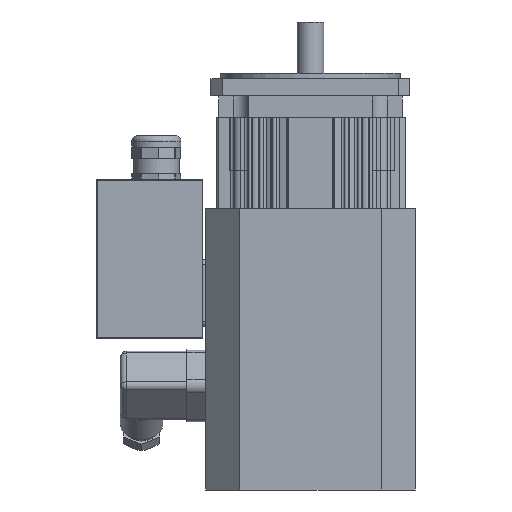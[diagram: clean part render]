
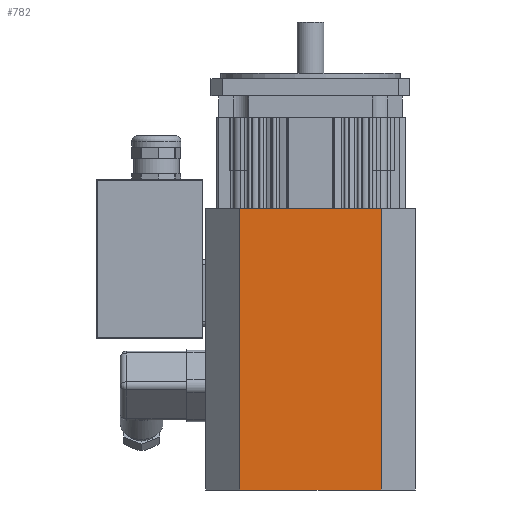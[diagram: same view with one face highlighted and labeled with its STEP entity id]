
A CAD part, left-side view. The second image highlights one B-rep face of the part: STEP entity #782.
In plain terms, the highlighted planar face has unit normal (-1, 0, 0).
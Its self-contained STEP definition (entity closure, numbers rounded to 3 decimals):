
#431=PLANE('',#10340);
#782=ADVANCED_FACE('',(#1577),#431,.T.);
#1577=FACE_OUTER_BOUND('',#2085,.T.);
#2085=EDGE_LOOP('',(#5064,#5065,#5066,#5067));
#2840=LINE('',#15090,#3692);
#2841=LINE('',#15093,#3693);
#2842=LINE('',#15095,#3694);
#2843=LINE('',#15097,#3695);
#3692=VECTOR('',#12084,1.);
#3693=VECTOR('',#12085,1.);
#3694=VECTOR('',#12086,1.);
#3695=VECTOR('',#12087,1.);
#5064=ORIENTED_EDGE('',*,*,#8512,.T.);
#5065=ORIENTED_EDGE('',*,*,#8513,.T.);
#5066=ORIENTED_EDGE('',*,*,#8514,.F.);
#5067=ORIENTED_EDGE('',*,*,#8515,.T.);
#7400=VERTEX_POINT('',#15091);
#7401=VERTEX_POINT('',#15092);
#7402=VERTEX_POINT('',#15094);
#7403=VERTEX_POINT('',#15096);
#8512=EDGE_CURVE('',#7400,#7401,#2840,.T.);
#8513=EDGE_CURVE('',#7401,#7402,#2841,.T.);
#8514=EDGE_CURVE('',#7403,#7402,#2842,.T.);
#8515=EDGE_CURVE('',#7403,#7400,#2843,.T.);
#10340=AXIS2_PLACEMENT_3D('',#15098,#12088,#12089);
#12084=DIRECTION('',(0.,-1.,0.));
#12085=DIRECTION('',(0.,0.,1.));
#12086=DIRECTION('',(0.,-1.,0.));
#12087=DIRECTION('',(0.,0.,-1.));
#12088=DIRECTION('',(-1.,0.,0.));
#12089=DIRECTION('',(0.,0.,1.));
#15090=CARTESIAN_POINT('',(-55.35,55.35,-96.5));
#15091=CARTESIAN_POINT('',(-55.35,37.35,-96.5));
#15092=CARTESIAN_POINT('',(-55.35,-37.35,-96.5));
#15093=CARTESIAN_POINT('',(-55.35,-37.35,52.));
#15094=CARTESIAN_POINT('',(-55.35,-37.35,52.));
#15095=CARTESIAN_POINT('',(-55.35,55.35,52.));
#15096=CARTESIAN_POINT('',(-55.35,37.35,52.));
#15097=CARTESIAN_POINT('',(-55.35,37.35,52.));
#15098=CARTESIAN_POINT('',(-55.35,55.35,52.));
